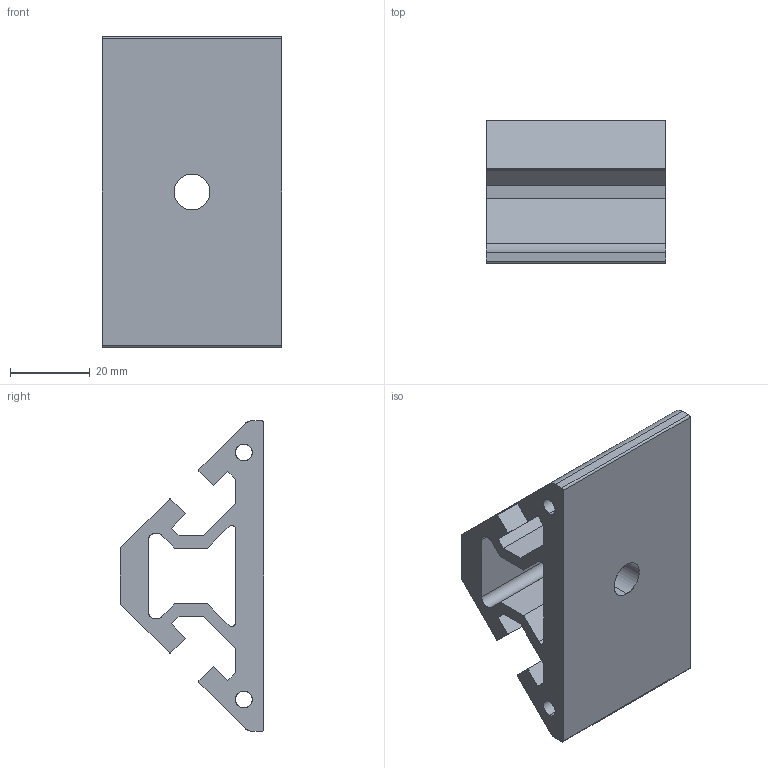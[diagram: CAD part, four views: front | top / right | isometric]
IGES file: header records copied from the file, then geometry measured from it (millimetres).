
Start section: SolidWorks IGES file using analytic representation for surfaces
Global section: file name: C:\Documents and Settings\Administrator\デスクトップ\指定保存後4回目\SolidWorks\SF\SF40・45\Bracket\トラスジョイントL40_L45\SFJ-J04.IGS,41HSolidWorks 2006 by; native system: SolidWorks Corporation; preprocessor: SolidWorks 2006 by SolidWorks Corporation; author: Administrator; date: 061215.172340; units: millimetre
Bounding box: 45 x 36 x 78 mm (x, y, z)
Surface area: 19715.7 mm2 (no closed solid volume)
Topology: 0 solids, 0 shells, 62 faces, 740 edges, 740 vertices
Faces by surface type: bspline 37, revolution 25
